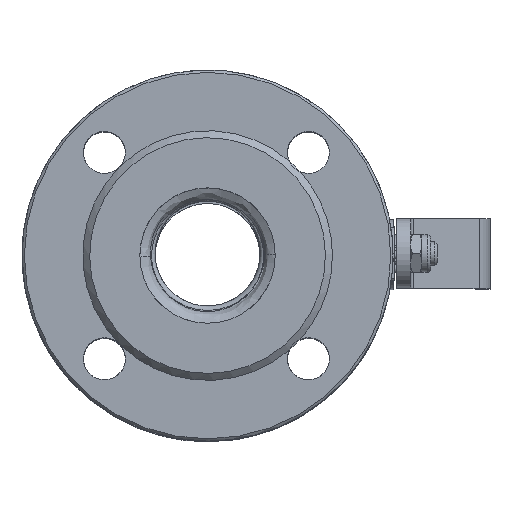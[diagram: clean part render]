
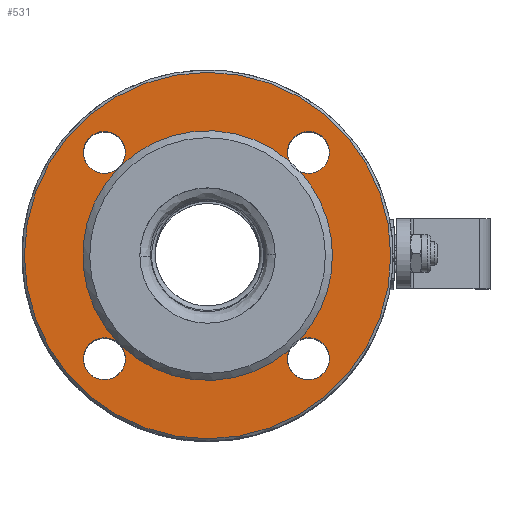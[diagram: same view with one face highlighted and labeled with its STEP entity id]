
A CAD part, top view. The second image highlights one B-rep face of the part: STEP entity #531.
In plain terms, the highlighted planar face has unit normal (0, 0, 1).
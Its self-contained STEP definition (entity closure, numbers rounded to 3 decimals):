
#531=ADVANCED_FACE('',(#4954,#4956),#4958,.T.);
#4954=FACE_BOUND('',#4955,.T.);
#4955=EDGE_LOOP('',(#7599));
#4956=FACE_BOUND('',#4957,.T.);
#4957=EDGE_LOOP('',(#7600,#7601,#7602,#7603,#7604,#7605,#7606,#7607,#7608,#7609,
#7610,#7611,#7612));
#4958=PLANE('',#4959);
#4959=AXIS2_PLACEMENT_3D('',#4960,#4961,#4962);
#4960=CARTESIAN_POINT('',(0.5,-0.5,87.));
#4961=DIRECTION('',(0.,0.,1.));
#4962=DIRECTION('',(0.,-1.,0.));
#7599=ORIENTED_EDGE('',*,*,#8746,.T.);
#7600=ORIENTED_EDGE('',*,*,#8740,.T.);
#7601=ORIENTED_EDGE('',*,*,#8742,.T.);
#7602=ORIENTED_EDGE('',*,*,#8724,.T.);
#7603=ORIENTED_EDGE('',*,*,#8734,.T.);
#7604=ORIENTED_EDGE('',*,*,#8733,.T.);
#7605=ORIENTED_EDGE('',*,*,#8722,.T.);
#7606=ORIENTED_EDGE('',*,*,#8731,.T.);
#7607=ORIENTED_EDGE('',*,*,#8730,.T.);
#7608=ORIENTED_EDGE('',*,*,#8720,.T.);
#7609=ORIENTED_EDGE('',*,*,#8736,.T.);
#7610=ORIENTED_EDGE('',*,*,#8738,.T.);
#7611=ORIENTED_EDGE('',*,*,#8718,.T.);
#7612=ORIENTED_EDGE('',*,*,#8726,.T.);
#8718=EDGE_CURVE('',#9329,#9330,#9331,.T.);
#8720=EDGE_CURVE('',#9334,#9332,#9335,.T.);
#8722=EDGE_CURVE('',#9338,#9336,#9339,.T.);
#8724=EDGE_CURVE('',#9342,#9340,#9343,.T.);
#8726=EDGE_CURVE('',#9330,#9344,#9346,.T.);
#8730=EDGE_CURVE('',#9353,#9334,#9354,.T.);
#8731=EDGE_CURVE('',#9336,#9353,#9355,.T.);
#8733=EDGE_CURVE('',#9358,#9338,#9359,.T.);
#8734=EDGE_CURVE('',#9340,#9358,#9360,.T.);
#8736=EDGE_CURVE('',#9332,#9363,#9364,.T.);
#8738=EDGE_CURVE('',#9363,#9329,#9366,.T.);
#8740=EDGE_CURVE('',#9344,#9369,#9370,.T.);
#8742=EDGE_CURVE('',#9369,#9342,#9372,.T.);
#8746=EDGE_CURVE('',#9379,#9379,#9380,.T.);
#9329=VERTEX_POINT('',#10983);
#9330=VERTEX_POINT('',#10984);
#9331=CIRCLE('',#10985,53.502);
#9332=VERTEX_POINT('',#10989);
#9334=VERTEX_POINT('',#10994);
#9335=CIRCLE('',#10995,53.502);
#9336=VERTEX_POINT('',#10999);
#9338=VERTEX_POINT('',#11005);
#9339=CIRCLE('',#11006,53.502);
#9340=VERTEX_POINT('',#11010);
#9342=VERTEX_POINT('',#11016);
#9343=CIRCLE('',#11017,53.502);
#9344=VERTEX_POINT('',#11021);
#9346=CIRCLE('',#11026,53.502);
#9353=VERTEX_POINT('',#11080);
#9354=CIRCLE('',#11081,9.);
#9355=CIRCLE('',#11085,9.);
#9358=VERTEX_POINT('',#11094);
#9359=CIRCLE('',#11095,9.);
#9360=CIRCLE('',#11099,9.);
#9363=VERTEX_POINT('',#11108);
#9364=CIRCLE('',#11109,9.);
#9366=CIRCLE('',#11117,9.);
#9369=VERTEX_POINT('',#11126);
#9370=CIRCLE('',#11127,9.);
#9372=CIRCLE('',#11135,9.);
#9379=VERTEX_POINT('',#11184);
#9380=CIRCLE('',#11185,78.502);
#10983=CARTESIAN_POINT('',(40.151,35.421,87.));
#10984=CARTESIAN_POINT('',(54.,0.,87.));
#10985=AXIS2_PLACEMENT_3D('',#10986,#10987,#10988);
#10986=CARTESIAN_POINT('',(0.5,-0.5,87.));
#10987=DIRECTION('',(0.,0.,-1.));
#10988=DIRECTION('',(0.741,0.671,0.));
#10989=CARTESIAN_POINT('',(35.504,39.962,87.));
#10994=CARTESIAN_POINT('',(-37.197,37.466,87.));
#10995=AXIS2_PLACEMENT_3D('',#10996,#10997,#10998);
#10996=CARTESIAN_POINT('',(0.5,-0.5,87.));
#10997=DIRECTION('',(0.,0.,-1.));
#10998=DIRECTION('',(-0.705,0.71,0.));
#10999=CARTESIAN_POINT('',(-37.466,37.197,87.));
#11005=CARTESIAN_POINT('',(-37.466,-38.197,87.));
#11006=AXIS2_PLACEMENT_3D('',#11007,#11008,#11009);
#11007=CARTESIAN_POINT('',(0.5,-0.5,87.));
#11008=DIRECTION('',(0.,0.,-1.));
#11009=DIRECTION('',(-0.71,-0.705,0.));
#11010=CARTESIAN_POINT('',(-37.197,-38.466,87.));
#11016=CARTESIAN_POINT('',(35.504,-40.962,87.));
#11017=AXIS2_PLACEMENT_3D('',#11018,#11019,#11020);
#11018=CARTESIAN_POINT('',(0.5,-0.5,87.));
#11019=DIRECTION('',(0.,0.,-1.));
#11020=DIRECTION('',(0.654,-0.756,0.));
#11021=CARTESIAN_POINT('',(40.151,-36.421,87.));
#11026=AXIS2_PLACEMENT_3D('',#11027,#11028,#11029);
#11027=CARTESIAN_POINT('',(0.5,-0.5,87.));
#11028=DIRECTION('',(0.,0.,-1.));
#11029=DIRECTION('',(1.,0.009,0.));
#11080=CARTESIAN_POINT('',(-43.694,34.694,87.));
#11081=AXIS2_PLACEMENT_3D('',#11082,#11083,#11084);
#11082=CARTESIAN_POINT('',(-43.694,43.694,87.));
#11083=DIRECTION('',(0.,0.,-1.));
#11084=DIRECTION('',(0.,-1.,0.));
#11085=AXIS2_PLACEMENT_3D('',#11086,#11087,#11088);
#11086=CARTESIAN_POINT('',(-43.694,43.694,87.));
#11087=DIRECTION('',(0.,0.,-1.));
#11088=DIRECTION('',(0.692,-0.722,0.));
#11094=CARTESIAN_POINT('',(-43.694,-53.694,87.));
#11095=AXIS2_PLACEMENT_3D('',#11096,#11097,#11098);
#11096=CARTESIAN_POINT('',(-43.694,-44.694,87.));
#11097=DIRECTION('',(0.,0.,-1.));
#11098=DIRECTION('',(0.,-1.,0.));
#11099=AXIS2_PLACEMENT_3D('',#11100,#11101,#11102);
#11100=CARTESIAN_POINT('',(-43.694,-44.694,87.));
#11101=DIRECTION('',(0.,0.,-1.));
#11102=DIRECTION('',(0.722,0.692,0.));
#11108=CARTESIAN_POINT('',(43.694,34.694,87.));
#11109=AXIS2_PLACEMENT_3D('',#11110,#11111,#11112);
#11110=CARTESIAN_POINT('',(43.694,43.694,87.));
#11111=DIRECTION('',(0.,0.,-1.));
#11112=DIRECTION('',(-0.91,-0.415,0.));
#11117=AXIS2_PLACEMENT_3D('',#11118,#11119,#11120);
#11118=CARTESIAN_POINT('',(43.694,43.694,87.));
#11119=DIRECTION('',(0.,0.,-1.));
#11120=DIRECTION('',(0.,-1.,0.));
#11126=CARTESIAN_POINT('',(43.694,-53.694,87.));
#11127=AXIS2_PLACEMENT_3D('',#11128,#11129,#11130);
#11128=CARTESIAN_POINT('',(43.694,-44.694,87.));
#11129=DIRECTION('',(0.,0.,-1.));
#11130=DIRECTION('',(-0.394,0.919,0.));
#11135=AXIS2_PLACEMENT_3D('',#11136,#11137,#11138);
#11136=CARTESIAN_POINT('',(43.694,-44.694,87.));
#11137=DIRECTION('',(0.,0.,-1.));
#11138=DIRECTION('',(0.,-1.,0.));
#11184=CARTESIAN_POINT('',(-78.002,-0.5,87.));
#11185=AXIS2_PLACEMENT_3D('',#11186,#11187,#11188);
#11186=CARTESIAN_POINT('',(0.5,-0.5,87.));
#11187=DIRECTION('',(0.,0.,1.));
#11188=DIRECTION('',(1.,0.,0.));
